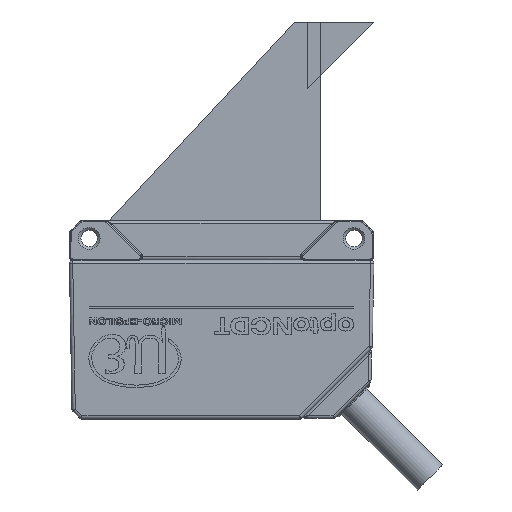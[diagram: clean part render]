
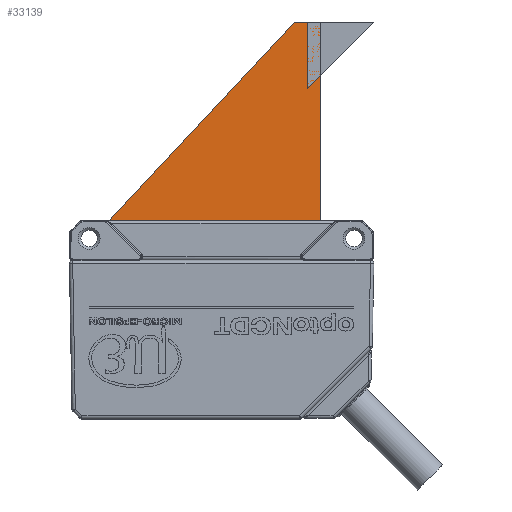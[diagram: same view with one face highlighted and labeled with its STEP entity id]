
A CAD part, front view. The second image highlights one B-rep face of the part: STEP entity #33139.
In plain terms, the highlighted planar face has unit normal (0, -1, 0).
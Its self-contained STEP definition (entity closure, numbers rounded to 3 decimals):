
#3800 = CARTESIAN_POINT ( 'NONE',  ( 14.991, -1.5, 35. ) ) ;
#5325 = ORIENTED_EDGE ( 'NONE', *, *, #62684, .F. ) ;
#5823 = VECTOR ( 'NONE', #79567, 1000. ) ;
#6098 = AXIS2_PLACEMENT_3D ( 'NONE', #21984, #57103, #84279 ) ;
#7404 = EDGE_CURVE ( 'NONE', #68983, #57486, #67817, .T. ) ;
#11085 = LINE ( 'NONE', #37794, #57080 ) ;
#11468 = LINE ( 'NONE', #25258, #5823 ) ;
#15301 = EDGE_CURVE ( 'NONE', #40195, #68983, #40968, .T. ) ;
#18718 = VERTEX_POINT ( 'NONE', #20287 ) ;
#20287 = CARTESIAN_POINT ( 'NONE',  ( 11., -1.5, 35. ) ) ;
#21984 = CARTESIAN_POINT ( 'NONE',  ( 0., -1.5, 0. ) ) ;
#25258 = CARTESIAN_POINT ( 'NONE',  ( 14.991, -1.5, 35. ) ) ;
#27178 = DIRECTION ( 'NONE',  ( 0., 0., -1. ) ) ;
#27785 = DIRECTION ( 'NONE',  ( -1., 0., 0. ) ) ;
#29770 = DIRECTION ( 'NONE',  ( 0.682, 0., 0.731 ) ) ;
#31492 = EDGE_LOOP ( 'NONE', ( #5325, #68314, #72022, #53054 ) ) ;
#31912 = CARTESIAN_POINT ( 'NONE',  ( -16.991, -1.5, 5. ) ) ;
#33139 = ADVANCED_FACE ( 'NONE', ( #63771 ), #62049, .T. ) ;
#33430 = CARTESIAN_POINT ( 'NONE',  ( 14.991, -1.5, 5. ) ) ;
#35842 = VECTOR ( 'NONE', #27785, 1000. ) ;
#37154 = EDGE_CURVE ( 'NONE', #18718, #40195, #11468, .T. ) ;
#37794 = CARTESIAN_POINT ( 'NONE',  ( 11., -1.5, 35. ) ) ;
#39441 = CARTESIAN_POINT ( 'NONE',  ( 14.991, -1.5, 5. ) ) ;
#40195 = VERTEX_POINT ( 'NONE', #3800 ) ;
#40264 = CARTESIAN_POINT ( 'NONE',  ( -16.991, -1.5, 5. ) ) ;
#40968 = LINE ( 'NONE', #33430, #57448 ) ;
#53054 = ORIENTED_EDGE ( 'NONE', *, *, #37154, .F. ) ;
#57080 = VECTOR ( 'NONE', #29770, 1000. ) ;
#57103 = DIRECTION ( 'NONE',  ( 0., -1., 0. ) ) ;
#57448 = VECTOR ( 'NONE', #27178, 1000. ) ;
#57486 = VERTEX_POINT ( 'NONE', #31912 ) ;
#62049 = PLANE ( 'NONE',  #6098 ) ;
#62684 = EDGE_CURVE ( 'NONE', #57486, #18718, #11085, .T. ) ;
#63771 = FACE_OUTER_BOUND ( 'NONE', #31492, .T. ) ;
#67817 = LINE ( 'NONE', #40264, #35842 ) ;
#68314 = ORIENTED_EDGE ( 'NONE', *, *, #7404, .F. ) ;
#68983 = VERTEX_POINT ( 'NONE', #39441 ) ;
#72022 = ORIENTED_EDGE ( 'NONE', *, *, #15301, .F. ) ;
#79567 = DIRECTION ( 'NONE',  ( 1., 0., 0. ) ) ;
#84279 = DIRECTION ( 'NONE',  ( 0., 0., -1. ) ) ;
